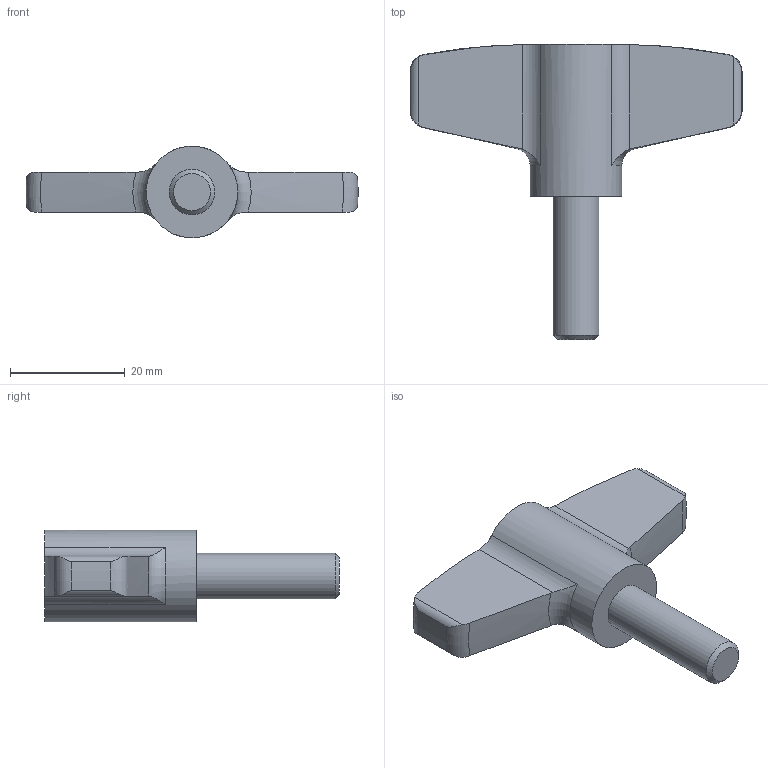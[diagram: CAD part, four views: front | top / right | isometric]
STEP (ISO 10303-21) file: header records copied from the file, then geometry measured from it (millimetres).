
FILE_DESCRIPTION( ( 'STEP AP203' ), '1' );
FILE_NAME( 'C:/Temp/Ganter_Step_05_03_2020/data/2_2/gn_835/Stainless Steel-Wing screw GN 835-58-M8-25-MT.stp', '2020-03-05T12:19:31', ( 'License CC BY-ND 4.0' ), ( 'CADENAS' ), ' ', 'PARTsolutions', ' ' );
FILE_SCHEMA( ( 'CONFIG_CONTROL_DESIGN' ) );
Length unit declared in the file: millimetre
Products named in the file (1): _Stainless Steel-Wing screw GN 835-58-M8-25-MT
Bounding box: 57.97 x 51.5 x 15.98 mm (x, y, z)
Volume: 11236.5 mm3; surface area: 4118.7 mm2
Topology: 1 solids, 1 shells, 30 faces, 76 edges, 49 vertices
Faces by surface type: cylinder 12, plane 7, torus 6, cone 3, bspline 2
Full cylindrical faces by diameter (mm): 8 x1, 16 x1
Entity records: 1166 total; most frequent: CARTESIAN_POINT 477, ORIENTED_EDGE 144, DIRECTION 114, EDGE_CURVE 72, AXIS2_PLACEMENT_3D 49, VERTEX_POINT 48, B_SPLINE_CURVE_WITH_KNOTS 36, EDGE_LOOP 34
